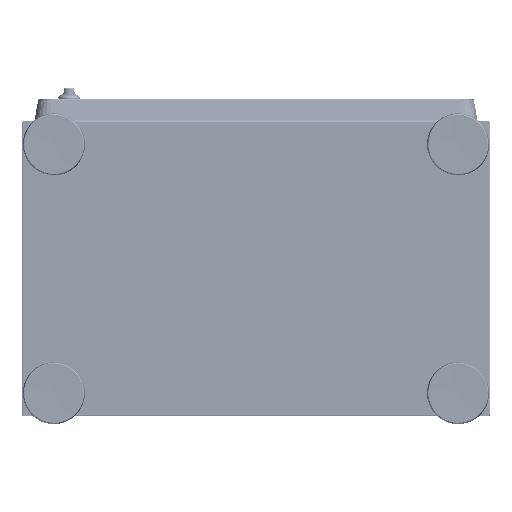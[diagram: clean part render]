
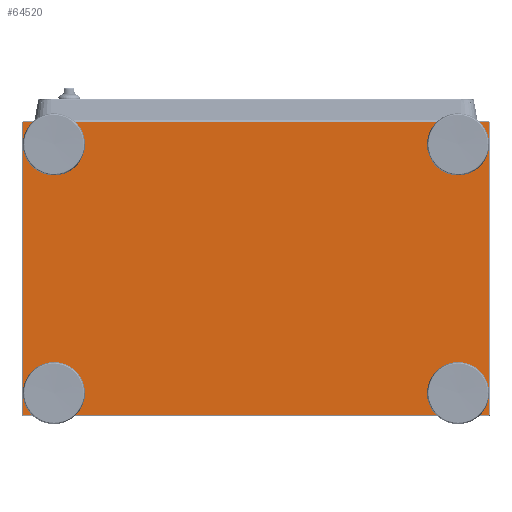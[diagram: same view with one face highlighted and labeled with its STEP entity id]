
A CAD part, front view. The second image highlights one B-rep face of the part: STEP entity #64520.
In plain terms, the highlighted planar face has unit normal (0, -1, 0) as drawn and (0, 0, 1) by its records, which use the part's own axes.
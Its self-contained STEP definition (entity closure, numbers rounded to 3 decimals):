
#1063 = AXIS2_PLACEMENT_3D ( 'NONE', #109275, #57008, #59194 ) ;
#1435 = AXIS2_PLACEMENT_3D ( 'NONE', #183099, #47413, #30726 ) ;
#6469 = VECTOR ( 'NONE', #171060, 1000. ) ;
#8228 = ORIENTED_EDGE ( 'NONE', *, *, #18398, .F. ) ;
#14458 = ORIENTED_EDGE ( 'NONE', *, *, #84268, .F. ) ;
#16356 = VECTOR ( 'NONE', #57941, 1000. ) ;
#16417 = DIRECTION ( 'NONE',  ( 1., 0., 0. ) ) ;
#16429 = VERTEX_POINT ( 'NONE', #55326 ) ;
#17055 = DIRECTION ( 'NONE',  ( 1., 0., 0. ) ) ;
#17442 = LINE ( 'NONE', #169850, #115132 ) ;
#18398 = EDGE_CURVE ( 'NONE', #16429, #162182, #127890, .T. ) ;
#18502 = VERTEX_POINT ( 'NONE', #74762 ) ;
#19082 = DIRECTION ( 'NONE',  ( 0., 0., 1. ) ) ;
#22574 = LINE ( 'NONE', #179356, #196863 ) ;
#23584 = EDGE_CURVE ( 'NONE', #85162, #18502, #33150, .T. ) ;
#24786 = EDGE_CURVE ( 'NONE', #18502, #149169, #109546, .T. ) ;
#29361 = VECTOR ( 'NONE', #209649, 1000. ) ;
#30726 = DIRECTION ( 'NONE',  ( 1., 0., 0. ) ) ;
#32676 = CARTESIAN_POINT ( 'NONE',  ( -260., -160., 0. ) ) ;
#33150 = LINE ( 'NONE', #100979, #117878 ) ;
#35365 = CARTESIAN_POINT ( 'NONE',  ( 299.429, 188.4, 0. ) ) ;
#35640 = DIRECTION ( 'NONE',  ( 1., 0., 0. ) ) ;
#37556 = CARTESIAN_POINT ( 'NONE',  ( -299.4, 188.429, 0. ) ) ;
#38627 = LINE ( 'NONE', #37556, #146959 ) ;
#39178 = DIRECTION ( 'NONE',  ( 1., 0., 0. ) ) ;
#42326 = EDGE_LOOP ( 'NONE', ( #107142, #123679 ) ) ;
#43463 = CARTESIAN_POINT ( 'NONE',  ( 260., -160., 0. ) ) ;
#47364 = FACE_BOUND ( 'NONE', #72031, .T. ) ;
#47413 = DIRECTION ( 'NONE',  ( 0., 0., 1. ) ) ;
#51427 = CARTESIAN_POINT ( 'NONE',  ( -234.429, 188.4, 0. ) ) ;
#51979 = EDGE_CURVE ( 'NONE', #55821, #139410, #65915, .T. ) ;
#52172 = VERTEX_POINT ( 'NONE', #123521 ) ;
#52815 = EDGE_CURVE ( 'NONE', #162182, #16429, #190033, .T. ) ;
#53152 = DIRECTION ( 'NONE',  ( 0., -1., 0. ) ) ;
#55326 = CARTESIAN_POINT ( 'NONE',  ( -270.5, -160., 0. ) ) ;
#55821 = VERTEX_POINT ( 'NONE', #178832 ) ;
#57008 = DIRECTION ( 'NONE',  ( 0., 0., 1. ) ) ;
#57941 = DIRECTION ( 'NONE',  ( -1., 0., 0. ) ) ;
#59106 = DIRECTION ( 'NONE',  ( 1., 0., 0. ) ) ;
#59194 = DIRECTION ( 'NONE',  ( 1., 0., 0. ) ) ;
#59305 = ORIENTED_EDGE ( 'NONE', *, *, #74505, .T. ) ;
#62958 = PLANE ( 'NONE',  #133147 ) ;
#64520 = ADVANCED_FACE ( 'NONE', ( #47364, #129744, #130822, #95206, #115229 ), #62958, .F. ) ;
#65739 = AXIS2_PLACEMENT_3D ( 'NONE', #32676, #168370, #17055 ) ;
#65915 = LINE ( 'NONE', #51427, #154249 ) ;
#67972 = CARTESIAN_POINT ( 'NONE',  ( 260., 160., 0. ) ) ;
#70499 = EDGE_CURVE ( 'NONE', #52172, #131643, #79152, .T. ) ;
#71379 = CARTESIAN_POINT ( 'NONE',  ( 260., -160., 0. ) ) ;
#72031 = EDGE_LOOP ( 'NONE', ( #135140, #8228 ) ) ;
#72898 = DIRECTION ( 'NONE',  ( 0., 0., 1. ) ) ;
#73550 = ORIENTED_EDGE ( 'NONE', *, *, #24786, .T. ) ;
#74505 = EDGE_CURVE ( 'NONE', #107499, #113522, #111305, .T. ) ;
#74762 = CARTESIAN_POINT ( 'NONE',  ( 234.429, -188.4, 0. ) ) ;
#74813 = CARTESIAN_POINT ( 'NONE',  ( -299.4, -188.4, 0. ) ) ;
#74908 = CARTESIAN_POINT ( 'NONE',  ( -270.5, 160., 0. ) ) ;
#79152 = CIRCLE ( 'NONE', #1063, 10.5 ) ;
#81748 = ORIENTED_EDGE ( 'NONE', *, *, #137020, .F. ) ;
#83185 = CIRCLE ( 'NONE', #1435, 10.5 ) ;
#84268 = EDGE_CURVE ( 'NONE', #207930, #115053, #211161, .T. ) ;
#84458 = AXIS2_PLACEMENT_3D ( 'NONE', #43463, #91360, #59106 ) ;
#84972 = EDGE_LOOP ( 'NONE', ( #14458, #81748 ) ) ;
#85162 = VERTEX_POINT ( 'NONE', #107767 ) ;
#85904 = DIRECTION ( 'NONE',  ( -1., 0., 0. ) ) ;
#88472 = CARTESIAN_POINT ( 'NONE',  ( 234.429, -188.4, 0. ) ) ;
#91027 = ORIENTED_EDGE ( 'NONE', *, *, #131200, .T. ) ;
#91360 = DIRECTION ( 'NONE',  ( 0., 0., 1. ) ) ;
#92817 = CARTESIAN_POINT ( 'NONE',  ( 299.4, 188.4, 0. ) ) ;
#94140 = ORIENTED_EDGE ( 'NONE', *, *, #51979, .T. ) ;
#95206 = FACE_BOUND ( 'NONE', #84972, .T. ) ;
#97652 = CIRCLE ( 'NONE', #129157, 10.5 ) ;
#98470 = CARTESIAN_POINT ( 'NONE',  ( -249.5, -160., 0. ) ) ;
#99592 = CARTESIAN_POINT ( 'NONE',  ( -301., -190., 0. ) ) ;
#100979 = CARTESIAN_POINT ( 'NONE',  ( -299.429, -188.4, 0. ) ) ;
#107142 = ORIENTED_EDGE ( 'NONE', *, *, #70499, .F. ) ;
#107364 = ORIENTED_EDGE ( 'NONE', *, *, #159275, .F. ) ;
#107499 = VERTEX_POINT ( 'NONE', #92817 ) ;
#107613 = ORIENTED_EDGE ( 'NONE', *, *, #112201, .F. ) ;
#107767 = CARTESIAN_POINT ( 'NONE',  ( -234.429, -188.4, 0. ) ) ;
#108000 = VERTEX_POINT ( 'NONE', #74813 ) ;
#109275 = CARTESIAN_POINT ( 'NONE',  ( -260., 160., 0. ) ) ;
#109546 = LINE ( 'NONE', #88472, #29361 ) ;
#111305 = LINE ( 'NONE', #163531, #16356 ) ;
#112201 = EDGE_CURVE ( 'NONE', #183321, #134336, #196215, .T. ) ;
#113454 = EDGE_CURVE ( 'NONE', #131643, #52172, #83185, .T. ) ;
#113522 = VERTEX_POINT ( 'NONE', #186425 ) ;
#115053 = VERTEX_POINT ( 'NONE', #171384 ) ;
#115132 = VECTOR ( 'NONE', #205410, 1000. ) ;
#115229 = FACE_OUTER_BOUND ( 'NONE', #118236, .T. ) ;
#117878 = VECTOR ( 'NONE', #16417, 1000. ) ;
#118236 = EDGE_LOOP ( 'NONE', ( #201541, #59305, #171909, #94140, #216376, #91027, #152204, #73550 ) ) ;
#119933 = LINE ( 'NONE', #35365, #6469 ) ;
#121313 = DIRECTION ( 'NONE',  ( 0., 0., 1. ) ) ;
#123521 = CARTESIAN_POINT ( 'NONE',  ( -249.5, 160., 0. ) ) ;
#123679 = ORIENTED_EDGE ( 'NONE', *, *, #113454, .F. ) ;
#125945 = AXIS2_PLACEMENT_3D ( 'NONE', #71379, #19082, #205931 ) ;
#127890 = CIRCLE ( 'NONE', #152729, 10.5 ) ;
#129157 = AXIS2_PLACEMENT_3D ( 'NONE', #173020, #72898, #140764 ) ;
#129744 = FACE_BOUND ( 'NONE', #42326, .T. ) ;
#130822 = FACE_BOUND ( 'NONE', #160518, .T. ) ;
#131200 = EDGE_CURVE ( 'NONE', #108000, #85162, #17442, .T. ) ;
#131643 = VERTEX_POINT ( 'NONE', #74908 ) ;
#133147 = AXIS2_PLACEMENT_3D ( 'NONE', #99592, #164181, #197534 ) ;
#134182 = CIRCLE ( 'NONE', #84458, 10.5 ) ;
#134336 = VERTEX_POINT ( 'NONE', #180790 ) ;
#135140 = ORIENTED_EDGE ( 'NONE', *, *, #52815, .F. ) ;
#137020 = EDGE_CURVE ( 'NONE', #115053, #207930, #134182, .T. ) ;
#139155 = CARTESIAN_POINT ( 'NONE',  ( 270.5, 160., 0. ) ) ;
#139403 = CARTESIAN_POINT ( 'NONE',  ( -260., -160., 0. ) ) ;
#139410 = VERTEX_POINT ( 'NONE', #165976 ) ;
#139447 = AXIS2_PLACEMENT_3D ( 'NONE', #67972, #121313, #35640 ) ;
#140764 = DIRECTION ( 'NONE',  ( 1., 0., 0. ) ) ;
#146959 = VECTOR ( 'NONE', #53152, 1000. ) ;
#149169 = VERTEX_POINT ( 'NONE', #161874 ) ;
#152204 = ORIENTED_EDGE ( 'NONE', *, *, #23584, .T. ) ;
#152729 = AXIS2_PLACEMENT_3D ( 'NONE', #139403, #207182, #39178 ) ;
#154249 = VECTOR ( 'NONE', #85904, 1000. ) ;
#158292 = DIRECTION ( 'NONE',  ( 0., 1., 0. ) ) ;
#159275 = EDGE_CURVE ( 'NONE', #134336, #183321, #97652, .T. ) ;
#160518 = EDGE_LOOP ( 'NONE', ( #107613, #107364 ) ) ;
#161874 = CARTESIAN_POINT ( 'NONE',  ( 299.4, -188.4, 0. ) ) ;
#162182 = VERTEX_POINT ( 'NONE', #98470 ) ;
#163531 = CARTESIAN_POINT ( 'NONE',  ( 299.429, 188.4, 0. ) ) ;
#164181 = DIRECTION ( 'NONE',  ( 0., 0., -1. ) ) ;
#165097 = EDGE_CURVE ( 'NONE', #139410, #108000, #38627, .T. ) ;
#165847 = CARTESIAN_POINT ( 'NONE',  ( 270.5, -160., 0. ) ) ;
#165976 = CARTESIAN_POINT ( 'NONE',  ( -299.4, 188.4, 0. ) ) ;
#168370 = DIRECTION ( 'NONE',  ( 0., 0., 1. ) ) ;
#169850 = CARTESIAN_POINT ( 'NONE',  ( -299.429, -188.4, 0. ) ) ;
#171060 = DIRECTION ( 'NONE',  ( -1., 0., 0. ) ) ;
#171201 = EDGE_CURVE ( 'NONE', #113522, #55821, #119933, .T. ) ;
#171384 = CARTESIAN_POINT ( 'NONE',  ( 249.5, -160., 0. ) ) ;
#171909 = ORIENTED_EDGE ( 'NONE', *, *, #171201, .T. ) ;
#173020 = CARTESIAN_POINT ( 'NONE',  ( 260., 160., 0. ) ) ;
#178832 = CARTESIAN_POINT ( 'NONE',  ( -234.429, 188.4, 0. ) ) ;
#179356 = CARTESIAN_POINT ( 'NONE',  ( 299.4, -188.429, 0. ) ) ;
#180790 = CARTESIAN_POINT ( 'NONE',  ( 249.5, 160., 0. ) ) ;
#183099 = CARTESIAN_POINT ( 'NONE',  ( -260., 160., 0. ) ) ;
#183321 = VERTEX_POINT ( 'NONE', #139155 ) ;
#186425 = CARTESIAN_POINT ( 'NONE',  ( 234.429, 188.4, 0. ) ) ;
#190033 = CIRCLE ( 'NONE', #65739, 10.5 ) ;
#196215 = CIRCLE ( 'NONE', #139447, 10.5 ) ;
#196863 = VECTOR ( 'NONE', #158292, 1000. ) ;
#197534 = DIRECTION ( 'NONE',  ( -1., 0., 0. ) ) ;
#201541 = ORIENTED_EDGE ( 'NONE', *, *, #211942, .T. ) ;
#205410 = DIRECTION ( 'NONE',  ( 1., 0., 0. ) ) ;
#205931 = DIRECTION ( 'NONE',  ( 1., 0., 0. ) ) ;
#207182 = DIRECTION ( 'NONE',  ( 0., 0., 1. ) ) ;
#207930 = VERTEX_POINT ( 'NONE', #165847 ) ;
#209649 = DIRECTION ( 'NONE',  ( 1., 0., 0. ) ) ;
#211161 = CIRCLE ( 'NONE', #125945, 10.5 ) ;
#211942 = EDGE_CURVE ( 'NONE', #149169, #107499, #22574, .T. ) ;
#216376 = ORIENTED_EDGE ( 'NONE', *, *, #165097, .T. ) ;
